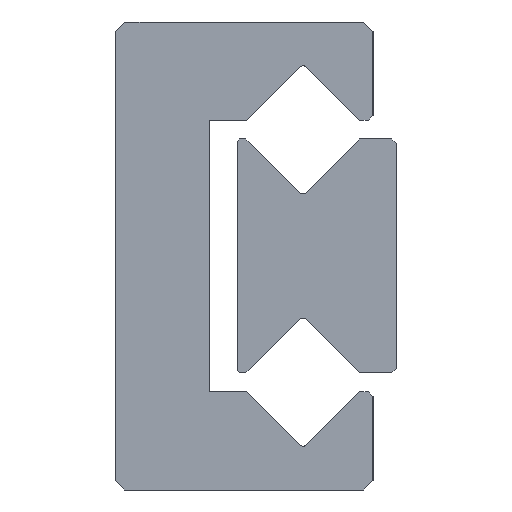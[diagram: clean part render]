
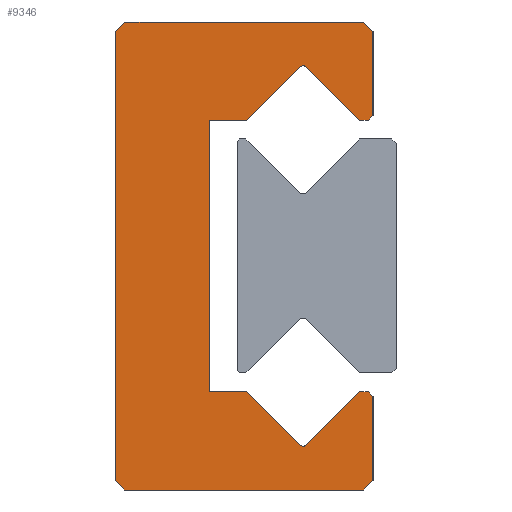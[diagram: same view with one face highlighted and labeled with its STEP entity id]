
A CAD part, left-side view. The second image highlights one B-rep face of the part: STEP entity #9346.
In plain terms, the highlighted planar face has unit normal (-1, 0, 0).
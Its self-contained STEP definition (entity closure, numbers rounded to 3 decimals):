
#298=CIRCLE('',#10139,0.1);
#304=CIRCLE('',#10151,0.1);
#1564=ORIENTED_EDGE('',*,*,#3904,.F.);
#1565=ORIENTED_EDGE('',*,*,#4358,.F.);
#1566=ORIENTED_EDGE('',*,*,#4351,.F.);
#1567=ORIENTED_EDGE('',*,*,#4348,.F.);
#1568=ORIENTED_EDGE('',*,*,#4345,.F.);
#1569=ORIENTED_EDGE('',*,*,#4342,.F.);
#1570=ORIENTED_EDGE('',*,*,#4339,.F.);
#1571=ORIENTED_EDGE('',*,*,#4336,.F.);
#1572=ORIENTED_EDGE('',*,*,#4333,.F.);
#1573=ORIENTED_EDGE('',*,*,#4330,.T.);
#1574=ORIENTED_EDGE('',*,*,#4327,.F.);
#1575=ORIENTED_EDGE('',*,*,#4324,.F.);
#1576=ORIENTED_EDGE('',*,*,#4321,.F.);
#1577=ORIENTED_EDGE('',*,*,#4314,.F.);
#1578=ORIENTED_EDGE('',*,*,#4311,.F.);
#1579=ORIENTED_EDGE('',*,*,#4308,.T.);
#1580=ORIENTED_EDGE('',*,*,#4305,.F.);
#1581=ORIENTED_EDGE('',*,*,#4302,.F.);
#1582=ORIENTED_EDGE('',*,*,#4299,.F.);
#1583=ORIENTED_EDGE('',*,*,#4296,.F.);
#1584=ORIENTED_EDGE('',*,*,#4293,.F.);
#1585=ORIENTED_EDGE('',*,*,#3908,.F.);
#3904=EDGE_CURVE('',#5336,#5337,#6312,.T.);
#3908=EDGE_CURVE('',#5337,#5340,#6316,.T.);
#4293=EDGE_CURVE('',#5340,#5724,#6453,.T.);
#4296=EDGE_CURVE('',#5724,#5726,#6456,.T.);
#4299=EDGE_CURVE('',#5726,#5728,#6459,.T.);
#4302=EDGE_CURVE('',#5728,#5730,#6462,.T.);
#4305=EDGE_CURVE('',#5730,#5732,#6465,.T.);
#4308=EDGE_CURVE('',#5734,#5732,#298,.T.);
#4311=EDGE_CURVE('',#5734,#5736,#6469,.T.);
#4314=EDGE_CURVE('',#5736,#5738,#6472,.T.);
#4321=EDGE_CURVE('',#5738,#5744,#6475,.T.);
#4324=EDGE_CURVE('',#5744,#5746,#6478,.T.);
#4327=EDGE_CURVE('',#5746,#5748,#6481,.T.);
#4330=EDGE_CURVE('',#5750,#5748,#304,.T.);
#4333=EDGE_CURVE('',#5750,#5752,#6485,.T.);
#4336=EDGE_CURVE('',#5752,#5754,#6488,.T.);
#4339=EDGE_CURVE('',#5754,#5756,#6491,.T.);
#4342=EDGE_CURVE('',#5756,#5758,#6494,.T.);
#4345=EDGE_CURVE('',#5758,#5760,#6497,.T.);
#4348=EDGE_CURVE('',#5760,#5762,#6500,.T.);
#4351=EDGE_CURVE('',#5762,#5764,#6503,.T.);
#4358=EDGE_CURVE('',#5764,#5336,#6506,.T.);
#5336=VERTEX_POINT('',#14213);
#5337=VERTEX_POINT('',#14214);
#5340=VERTEX_POINT('',#14222);
#5724=VERTEX_POINT('',#14992);
#5726=VERTEX_POINT('',#14998);
#5728=VERTEX_POINT('',#15004);
#5730=VERTEX_POINT('',#15010);
#5732=VERTEX_POINT('',#15016);
#5734=VERTEX_POINT('',#15022);
#5736=VERTEX_POINT('',#15028);
#5738=VERTEX_POINT('',#15034);
#5744=VERTEX_POINT('',#15048);
#5746=VERTEX_POINT('',#15054);
#5748=VERTEX_POINT('',#15060);
#5750=VERTEX_POINT('',#15066);
#5752=VERTEX_POINT('',#15072);
#5754=VERTEX_POINT('',#15078);
#5756=VERTEX_POINT('',#15084);
#5758=VERTEX_POINT('',#15090);
#5760=VERTEX_POINT('',#15096);
#5762=VERTEX_POINT('',#15102);
#5764=VERTEX_POINT('',#15108);
#6312=LINE('',#14212,#7148);
#6316=LINE('',#14221,#7152);
#6453=LINE('',#14991,#7289);
#6456=LINE('',#14997,#7292);
#6459=LINE('',#15003,#7295);
#6462=LINE('',#15009,#7298);
#6465=LINE('',#15015,#7301);
#6469=LINE('',#15027,#7305);
#6472=LINE('',#15033,#7308);
#6475=LINE('',#15047,#7311);
#6478=LINE('',#15053,#7314);
#6481=LINE('',#15059,#7317);
#6485=LINE('',#15071,#7321);
#6488=LINE('',#15077,#7324);
#6491=LINE('',#15083,#7327);
#6494=LINE('',#15089,#7330);
#6497=LINE('',#15095,#7333);
#6500=LINE('',#15101,#7336);
#6503=LINE('',#15107,#7339);
#6506=LINE('',#15121,#7342);
#7148=VECTOR('',#11103,1000.);
#7152=VECTOR('',#11109,1000.);
#7289=VECTOR('',#11744,1000.);
#7292=VECTOR('',#11749,1000.);
#7295=VECTOR('',#11754,1000.);
#7298=VECTOR('',#11759,1000.);
#7301=VECTOR('',#11764,1000.);
#7305=VECTOR('',#11776,1000.);
#7308=VECTOR('',#11781,1000.);
#7311=VECTOR('',#11794,1000.);
#7314=VECTOR('',#11799,1000.);
#7317=VECTOR('',#11804,1000.);
#7321=VECTOR('',#11816,1000.);
#7324=VECTOR('',#11821,1000.);
#7327=VECTOR('',#11826,1000.);
#7330=VECTOR('',#11831,1000.);
#7333=VECTOR('',#11836,1000.);
#7336=VECTOR('',#11841,1000.);
#7339=VECTOR('',#11846,1000.);
#7342=VECTOR('',#11859,1000.);
#8026=EDGE_LOOP('',(#1564,#1565,#1566,#1567,#1568,#1569,#1570,#1571,#1572,
#1573,#1574,#1575,#1576,#1577,#1578,#1579,#1580,#1581,#1582,#1583,#1584,
#1585));
#8600=FACE_BOUND('',#8026,.T.);
#9125=PLANE('',#10166);
#9346=ADVANCED_FACE('',(#8600),#9125,.F.);
#10139=AXIS2_PLACEMENT_3D('',#15021,#11769,#11770);
#10151=AXIS2_PLACEMENT_3D('',#15065,#11809,#11810);
#10166=AXIS2_PLACEMENT_3D('',#15124,#11863,#11864);
#11103=DIRECTION('',(0.,-0.707,0.707));
#11109=DIRECTION('',(0.,-1.,0.));
#11744=DIRECTION('',(0.,-0.707,-0.707));
#11749=DIRECTION('',(0.,0.,-1.));
#11754=DIRECTION('',(0.,0.707,-0.707));
#11759=DIRECTION('',(0.,1.,0.));
#11764=DIRECTION('',(0.,0.707,0.707));
#11769=DIRECTION('',(1.,0.,0.));
#11770=DIRECTION('',(0.,0.,-1.));
#11776=DIRECTION('',(0.,0.707,-0.707));
#11781=DIRECTION('',(0.,1.,0.));
#11794=DIRECTION('',(0.,0.,-1.));
#11799=DIRECTION('',(0.,-1.,0.));
#11804=DIRECTION('',(0.,-0.707,-0.707));
#11809=DIRECTION('',(1.,0.,0.));
#11810=DIRECTION('',(0.,0.,-1.));
#11816=DIRECTION('',(0.,-0.707,0.707));
#11821=DIRECTION('',(0.,-1.,0.));
#11826=DIRECTION('',(0.,-0.707,-0.707));
#11831=DIRECTION('',(0.,0.,-1.));
#11836=DIRECTION('',(0.,0.707,-0.707));
#11841=DIRECTION('',(0.,1.,0.));
#11846=DIRECTION('',(0.,0.707,0.707));
#11859=DIRECTION('',(0.,0.,1.));
#11863=DIRECTION('',(1.,0.,0.));
#11864=DIRECTION('',(0.,0.,-1.));
#14212=CARTESIAN_POINT('',(-25.,5.5,4.8));
#14213=CARTESIAN_POINT('',(-25.,5.5,4.8));
#14214=CARTESIAN_POINT('',(-25.,5.3,5.));
#14221=CARTESIAN_POINT('',(-25.,5.3,5.));
#14222=CARTESIAN_POINT('',(-25.,0.2,5.));
#14991=CARTESIAN_POINT('',(-25.,0.2,5.));
#14992=CARTESIAN_POINT('',(-25.,0.,4.8));
#14997=CARTESIAN_POINT('',(-25.,0.,4.8));
#14998=CARTESIAN_POINT('',(-25.,0.,3.));
#15003=CARTESIAN_POINT('',(-25.,0.,3.));
#15004=CARTESIAN_POINT('',(-25.,0.1,2.9));
#15009=CARTESIAN_POINT('',(-25.,0.1,2.9));
#15010=CARTESIAN_POINT('',(-25.,0.286,2.9));
#15015=CARTESIAN_POINT('',(-25.,0.286,2.9));
#15016=CARTESIAN_POINT('',(-25.,1.422,4.036));
#15021=CARTESIAN_POINT('',(-25.,1.493,3.965));
#15022=CARTESIAN_POINT('',(-25.,1.563,4.036));
#15027=CARTESIAN_POINT('',(-25.,1.563,4.036));
#15028=CARTESIAN_POINT('',(-25.,2.699,2.9));
#15033=CARTESIAN_POINT('',(-25.,2.699,2.9));
#15034=CARTESIAN_POINT('',(-25.,3.5,2.9));
#15047=CARTESIAN_POINT('',(-25.,3.5,2.9));
#15048=CARTESIAN_POINT('',(-25.,3.5,-2.9));
#15053=CARTESIAN_POINT('',(-25.,3.5,-2.9));
#15054=CARTESIAN_POINT('',(-25.,2.699,-2.9));
#15059=CARTESIAN_POINT('',(-25.,2.699,-2.9));
#15060=CARTESIAN_POINT('',(-25.,1.563,-4.036));
#15065=CARTESIAN_POINT('',(-25.,1.493,-3.965));
#15066=CARTESIAN_POINT('',(-25.,1.422,-4.036));
#15071=CARTESIAN_POINT('',(-25.,1.422,-4.036));
#15072=CARTESIAN_POINT('',(-25.,0.286,-2.9));
#15077=CARTESIAN_POINT('',(-25.,0.286,-2.9));
#15078=CARTESIAN_POINT('',(-25.,0.1,-2.9));
#15083=CARTESIAN_POINT('',(-25.,0.1,-2.9));
#15084=CARTESIAN_POINT('',(-25.,0.,-3.));
#15089=CARTESIAN_POINT('',(-25.,0.,-3.));
#15090=CARTESIAN_POINT('',(-25.,0.,-4.8));
#15095=CARTESIAN_POINT('',(-25.,0.,-4.8));
#15096=CARTESIAN_POINT('',(-25.,0.2,-5.));
#15101=CARTESIAN_POINT('',(-25.,0.2,-5.));
#15102=CARTESIAN_POINT('',(-25.,5.3,-5.));
#15107=CARTESIAN_POINT('',(-25.,5.3,-5.));
#15108=CARTESIAN_POINT('',(-25.,5.5,-4.8));
#15121=CARTESIAN_POINT('',(-25.,5.5,-4.8));
#15124=CARTESIAN_POINT('',(-25.,1.493,3.965));
